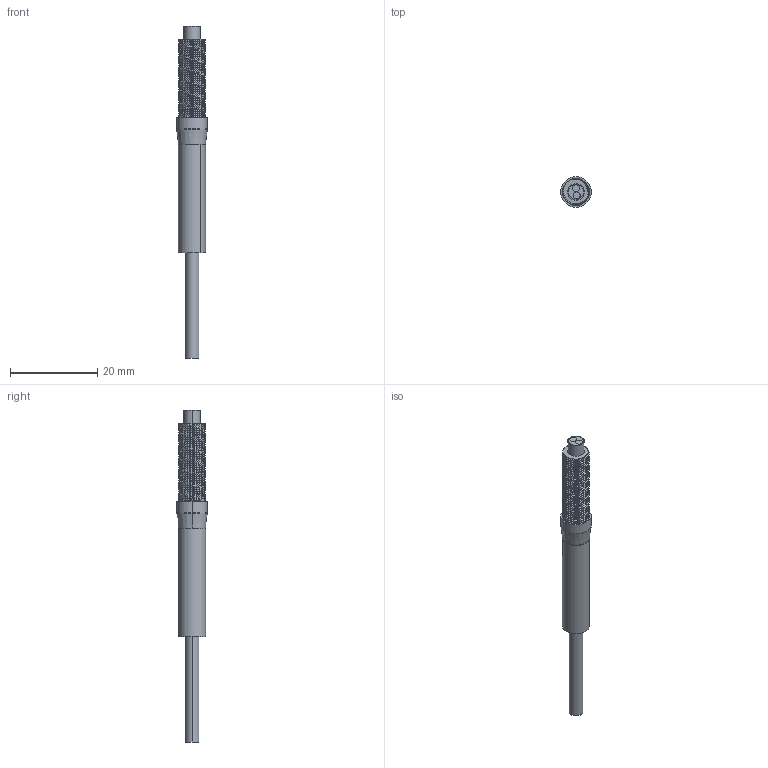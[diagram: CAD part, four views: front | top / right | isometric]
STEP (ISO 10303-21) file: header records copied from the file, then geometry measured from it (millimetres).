
FILE_DESCRIPTION((''),'2;1');
FILE_NAME('PT-62_ASM','2023-09-19T14:44:54',('gz'),(''),'CREO PARAMETRIC BY PTC INC, 2020154','CREO PARAMETRIC BY PTC INC, 2020154','');
FILE_SCHEMA(('AUTOMOTIVE_DESIGN { 1 0 10303 214 1 1 1 1 }'));
Length unit declared in the file: millimetre
Products named in the file (4): __1_2_3_1000; PT-62_1_ASM_1_ASM; PT-62_ASM_1_ASM; PT-62_ASM
Assembly tree (3 placements, depth 4):
  PT-62_ASM
    PT-62_ASM_1_ASM
      PT-62_1_ASM_1_ASM
        __1_2_3_1000
Bounding box: 7 x 7 x 76 mm (x, y, z)
Volume: 1297.5 mm3; surface area: 2295.7 mm2
Topology: 1 solids, 1 shells, 122 faces, 329 edges, 216 vertices
Faces by surface type: cylinder 96, plane 10, torus 8, cone 6, bspline 2
Entity records: 15663 total; most frequent: CARTESIAN_POINT 11423, ORIENTED_EDGE 658, DIRECTION 495, PRESENTATION_STYLE_ASSIGNMENT 364, STYLED_ITEM 330, CURVE_STYLE 329, EDGE_CURVE 329, VERTEX_POINT 216
